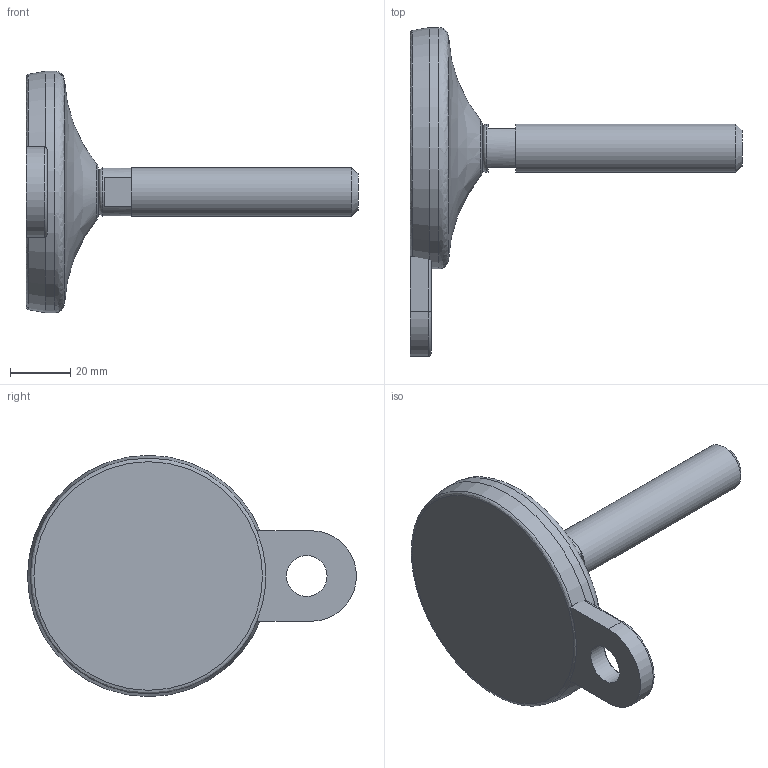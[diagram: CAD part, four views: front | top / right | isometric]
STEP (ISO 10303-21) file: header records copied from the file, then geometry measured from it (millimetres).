
FILE_DESCRIPTION(('STEP AP203'),'2;1');
FILE_NAME('25020-F.stp','2014-02-12T16:44:35',(''),(''),'2008.1.107','THINKDESIGN','');
FILE_SCHEMA(('CONFIG_CONTROL_DESIGN'));
Length unit declared in the file: millimetre
Bounding box: 110 x 109 x 80 mm (x, y, z)
Volume: 97949.8 mm3; surface area: 20276.4 mm2
Topology: 4 solids, 4 shells, 31 faces, 74 edges, 51 vertices
Faces by surface type: plane 14, bspline 9, cylinder 8
Full cylindrical faces by diameter (mm): 13.5 x1, 16 x2, 80 x1
Entity records: 1761 total; most frequent: CARTESIAN_POINT 927, DIRECTION 163, ORIENTED_EDGE 148, EDGE_CURVE 74, AXIS2_PLACEMENT_3D 69, VERTEX_POINT 51, CIRCLE 47, EDGE_LOOP 33
